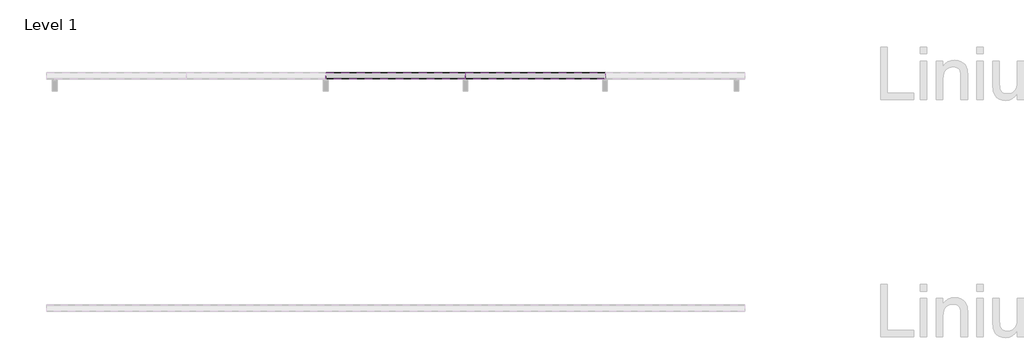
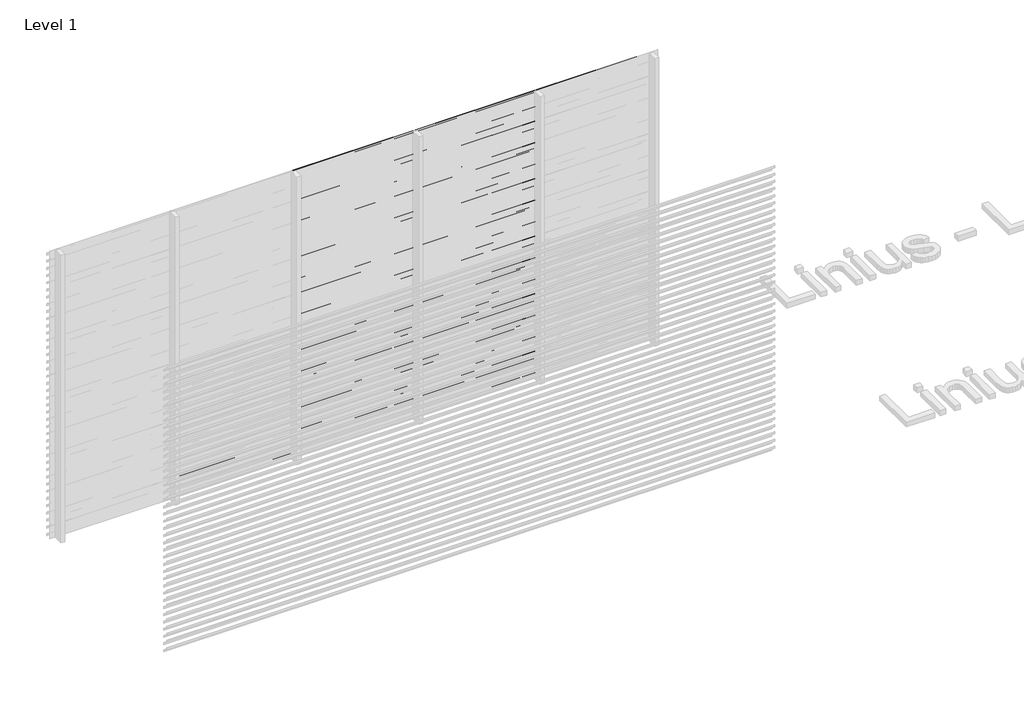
# One storey, part 22 of 55: 84 proxies.
"""IFC4 building model written with IfcOpenShell, lengths in millimetres."""

import ifcopenshell
import ifcopenshell.guid

model = None  # the IFC model being written
_history = None  # IfcOwnerHistory: only IFC2X3 demands one
_inside = {}  # id of a spatial element -> (the spatial element, [elements in it])
_under = {}  # id of a project, library or spatial element -> (it, [spatial elements below it])
_declared = {}  # id of a project -> (the project, [libraries it declares])
_typed = {}  # id of a type object -> (the type object, [elements of that type])
_made_of = {}  # id of a material, layer set ... -> (it, [elements and type objects made of it])


def new_model(schema):
    """Start an empty IFC model of exactly this schema.

    Asked for "IFC4X3", IfcOpenShell would pick the latest addendum, in which some entities
    have other attributes; the version numbers below select the first issue.
    IFC2X3 requires an IfcOwnerHistory on every rooted entity: one is made here for all.
    """
    global model, _history
    if schema == "IFC4X3":
        model = ifcopenshell.file(schema_version=(4, 3, 0, 0))
    else:
        model = ifcopenshell.file(schema=schema)
    _inside.clear()
    _under.clear()
    _declared.clear()
    _typed.clear()
    _made_of.clear()
    _history = None
    if model.schema == "IFC2X3":
        org = make("IfcOrganization", Name="unknown")
        user = make(
            "IfcPersonAndOrganization",
            ThePerson=make("IfcPerson", FamilyName="unknown"),
            TheOrganization=org,
        )
        app = make(
            "IfcApplication",
            ApplicationDeveloper=org,
            Version="unknown",
            ApplicationFullName="unknown",
            ApplicationIdentifier="unknown",
        )
        _history = make(
            "IfcOwnerHistory",
            OwningUser=user,
            OwningApplication=app,
            ChangeAction="ADDED",
            CreationDate=0,
        )
    return model


def make(cls, **values):
    """One entity of the class cls with the attributes given. An attribute that is None is left unset."""
    return model.create_entity(
        cls, **{name: value for name, value in values.items() if value is not None}
    )


def rooted(cls, **values):
    """An entity with a GlobalId (a new one), such as an element, a storey or a relation."""
    return make(cls, GlobalId=ifcopenshell.guid.new(), OwnerHistory=_history, **values)


def si_unit(unit_type, name, prefix=None):
    """IfcSIUnit, for example si_unit("LENGTHUNIT", "METRE", prefix="MILLI")."""
    return make("IfcSIUnit", UnitType=unit_type, Prefix=prefix, Name=name)


def assignment(units):
    """IfcUnitAssignment: the units of a project."""
    return None if units is None else make("IfcUnitAssignment", Units=units)


def point(xyz):
    """IfcCartesianPoint."""
    return None if xyz is None else make("IfcCartesianPoint", Coordinates=xyz)


def direction(xyz):
    """IfcDirection."""
    return None if xyz is None else make("IfcDirection", DirectionRatios=xyz)


def frame(location, z_axis=None, x_axis=None):
    """IfcAxis2Placement3D, a coordinate frame: its origin and axes. An axis left out is left unset."""
    return make(
        "IfcAxis2Placement3D",
        Location=point(location),
        Axis=direction(z_axis),
        RefDirection=direction(x_axis),
    )


def origin():
    """The frame at (0, 0, 0) with its axes left unset."""
    return frame((0.0, 0.0, 0.0))


def place(relative_to, where):
    """IfcLocalPlacement: puts the frame where relative to a parent placement (None: the world)."""
    return make(
        "IfcLocalPlacement", PlacementRelTo=relative_to, RelativePlacement=where
    )


def context(
    kind, dimensions, precision=None, world=None, true_north=None, identifier=None
):
    """IfcGeometricRepresentationContext, for example the 3D "Model" context."""
    return make(
        "IfcGeometricRepresentationContext",
        ContextIdentifier=identifier,
        ContextType=kind,
        CoordinateSpaceDimension=dimensions,
        Precision=precision,
        WorldCoordinateSystem=world,
        TrueNorth=true_north,
    )


def project(units=None, contexts=None):
    """IfcProject with its units and contexts."""
    return rooted(
        "IfcProject",
        Name="project",
        RepresentationContexts=contexts,
        UnitsInContext=assignment(units),
    )


def spatial(cls, under=None, at=None, **own):
    """A site, building, storey or space (cls), placed at a placement, below another one or the project."""
    s = rooted(cls, ObjectPlacement=at, **own)
    if under is not None:
        _under.setdefault(under.id(), (under, []))[1].append(s)
    return s


def polyline(points):
    """IfcPolyline through the points."""
    return make("IfcPolyline", Points=[point(p) for p in points])


def outline(outer, holes=None, kind="AREA"):
    """IfcArbitraryClosedProfileDef: a profile drawn as a closed curve; with holes, ...WithVoids."""
    if holes is None:
        return make("IfcArbitraryClosedProfileDef", ProfileType=kind, OuterCurve=outer)
    return make(
        "IfcArbitraryProfileDefWithVoids",
        ProfileType=kind,
        OuterCurve=outer,
        InnerCurves=holes,
    )


def extrude(swept, where, along, depth):
    """IfcExtrudedAreaSolid: the profile swept, set in the frame where, extruded along a direction by depth."""
    return make(
        "IfcExtrudedAreaSolid",
        SweptArea=swept,
        Position=where,
        ExtrudedDirection=direction(along),
        Depth=depth,
    )


def shape(context_of_items, identifier, shape_type, items):
    """IfcShapeRepresentation: the items that make up one representation, for example the "Body"."""
    return make(
        "IfcShapeRepresentation",
        ContextOfItems=context_of_items,
        RepresentationIdentifier=identifier,
        RepresentationType=shape_type,
        Items=items,
    )


def made_of(thing, what):
    """Note that an element or type object is made of a material, layer set ...; save() writes the relation."""
    if what is not None:
        _made_of.setdefault(what.id(), (what, []))[1].append(thing)
    return thing


def element(
    cls,
    number,
    at=None,
    inside=None,
    cuts=None,
    type_object=None,
    material=None,
    context=None,
    identifier="Body",
    shape_type=None,
    held_by="IfcProductDefinitionShape",
    body=None,
    shapes=None,
    **own,
):
    """One element of the class cls, such as IfcWall. Its Tag is "e" and its number.

    at: its placement. inside: the storey or other place that contains it. cuts: it is an
    opening in that element (IfcRelVoidsElement). A single representation is given by context,
    identifier, shape_type and body (its items); several are given by shapes. held_by: the class
    of the entity that holds the representations. save() writes the other relations.
    """
    e = rooted(cls, Tag="e%d" % number, ObjectPlacement=at, **own)
    if body is not None:
        shapes = [shape(context, identifier, shape_type, body)]
    if shapes is not None:
        e.Representation = make(held_by, Representations=shapes)
    if inside is not None:
        _inside.setdefault(inside.id(), (inside, []))[1].append(e)
    if cuts is not None:
        rooted(
            "IfcRelVoidsElement", RelatingBuildingElement=cuts, RelatedOpeningElement=e
        )
    if type_object is not None:
        _typed.setdefault(type_object.id(), (type_object, []))[1].append(e)
    return made_of(e, material)


def aggregate(whole, parts):
    """IfcRelAggregates: a whole, such as a stair, and the parts it consists of."""
    return rooted("IfcRelAggregates", RelatingObject=whole, RelatedObjects=parts)


def save(model, path):
    """Write the relations noted so far, then the file.

    IfcRelAggregates (storeys below a building ...), IfcRelContainedInSpatialStructure (elements
    in a storey), IfcRelDefinesByType, IfcRelAssociatesMaterial and IfcRelDeclares: one each for
    every whole, place, type object, material and project.
    """
    for whole, parts in _under.values():
        aggregate(whole, parts)
    for where, things in _inside.values():
        rooted(
            "IfcRelContainedInSpatialStructure",
            RelatedElements=things,
            RelatingStructure=where,
        )
    for kind, things in _typed.values():
        rooted("IfcRelDefinesByType", RelatedObjects=things, RelatingType=kind)
    for what, things in _made_of.values():
        rooted("IfcRelAssociatesMaterial", RelatedObjects=things, RelatingMaterial=what)
    for by, libraries in _declared.values():
        rooted("IfcRelDeclares", RelatingContext=by, RelatedDefinitions=libraries)
    model.write(path)


model = new_model("IFC4")

# Units and contexts
model_context = context("Model", 3, world=origin())
ifc_project = project(units=[si_unit("LENGTHUNIT", "METRE", prefix="MILLI")], contexts=[model_context])

# Site, building, storey
site = spatial("IfcSite", under=ifc_project)
building = spatial("IfcBuilding", under=site)
storey = spatial("IfcBuildingStorey", under=building, Name="Level 1", Elevation=0.0)

# Proxies
placement = place(None, origin())
element("IfcBuildingElementProxy", 1, Name="Wall Sweeps", at=placement, inside=storey, context=model_context, shape_type="SweptSolid", body=[
    extrude(outline(polyline([(29081.0540136, 168.5), (29081.0540136, 148.5), (29079.8040136, 149.2216933), (29079.8040136, 167.7872415), (29026.0540136, 205.3158044), (29026.0540136, 225.0), (29027.3040136, 225.0), (29027.3040136, 206.0285629), (29081.0540136, 168.5)])), frame((1666.6208099, 0.0, 0.0), z_axis=(1.0, 0.0, 0.0), x_axis=(0.0, 1.0, 0.0)), (0.0, 0.0, 1.0), 1199.9999999),
])
element("IfcBuildingElementProxy", 2, Name="Wall Sweeps", at=placement, inside=storey, context=model_context, shape_type="SweptSolid", body=[
    extrude(outline(polyline([(29081.0540136, 93.5), (29081.0540136, 73.5), (29079.8040136, 74.2216933), (29079.8040136, 92.7872415), (29026.0540136, 130.3158044), (29026.0540136, 150.0), (29027.3040136, 150.0), (29027.3040136, 131.0285629), (29081.0540136, 93.5)])), frame((1666.6208099, 0.0, 0.0), z_axis=(1.0, 0.0, 0.0), x_axis=(0.0, 1.0, 0.0)), (0.0, 0.0, 1.0), 1199.9999999),
])
element("IfcBuildingElementProxy", 3, Name="Wall Sweeps", at=placement, inside=storey, context=model_context, shape_type="SweptSolid", body=[
    extrude(outline(polyline([(29081.0540136, 18.5), (29081.0540136, -1.5), (29079.8040136, -0.7783067), (29079.8040136, 17.7872415), (29026.0540136, 55.3158044), (29026.0540136, 75.0), (29027.3040136, 75.0), (29027.3040136, 56.0285629), (29081.0540136, 18.5)])), frame((1666.6208099, 0.0, 0.0), z_axis=(1.0, 0.0, 0.0), x_axis=(0.0, 1.0, 0.0)), (0.0, 0.0, 1.0), 1199.9999999),
])
element("IfcBuildingElementProxy", 4, Name="Wall Sweeps", at=placement, inside=storey, context=model_context, shape_type="SweptSolid", body=[
    extrude(outline(polyline([(29081.0540136, 2943.5), (29081.0540136, 2923.5), (29079.8040136, 2924.2216933), (29079.8040136, 2942.7872415), (29026.0540136, 2980.3158044), (29026.0540136, 3000.0), (29027.3040136, 3000.0), (29027.3040136, 2981.0285629), (29081.0540136, 2943.5)])), frame((2866.6208097, 0.0, 0.0), z_axis=(1.0, 0.0, 0.0), x_axis=(0.0, 1.0, 0.0)), (0.0, 0.0, 1.0), 1199.9999999),
])
element("IfcBuildingElementProxy", 5, Name="Wall Sweeps", at=placement, inside=storey, context=model_context, shape_type="SweptSolid", body=[
    extrude(outline(polyline([(29081.0540136, 2868.5), (29081.0540136, 2848.5), (29079.8040136, 2849.2216933), (29079.8040136, 2867.7872415), (29026.0540136, 2905.3158044), (29026.0540136, 2925.0), (29027.3040136, 2925.0), (29027.3040136, 2906.0285629), (29081.0540136, 2868.5)])), frame((2866.6208097, 0.0, 0.0), z_axis=(1.0, 0.0, 0.0), x_axis=(0.0, 1.0, 0.0)), (0.0, 0.0, 1.0), 1199.9999999),
])
element("IfcBuildingElementProxy", 6, Name="Wall Sweeps", at=placement, inside=storey, context=model_context, shape_type="SweptSolid", body=[
    extrude(outline(polyline([(29081.0540136, 2793.5), (29081.0540136, 2773.5), (29079.8040136, 2774.2216933), (29079.8040136, 2792.7872415), (29026.0540136, 2830.3158044), (29026.0540136, 2850.0), (29027.3040136, 2850.0), (29027.3040136, 2831.0285629), (29081.0540136, 2793.5)])), frame((2866.6208097, 0.0, 0.0), z_axis=(1.0, 0.0, 0.0), x_axis=(0.0, 1.0, 0.0)), (0.0, 0.0, 1.0), 1199.9999999),
])
element("IfcBuildingElementProxy", 7, Name="Wall Sweeps", at=placement, inside=storey, context=model_context, shape_type="SweptSolid", body=[
    extrude(outline(polyline([(29081.0540136, 2718.5), (29081.0540136, 2698.5), (29079.8040136, 2699.2216933), (29079.8040136, 2717.7872415), (29026.0540136, 2755.3158044), (29026.0540136, 2775.0), (29027.3040136, 2775.0), (29027.3040136, 2756.0285629), (29081.0540136, 2718.5)])), frame((2866.6208097, 0.0, 0.0), z_axis=(1.0, 0.0, 0.0), x_axis=(0.0, 1.0, 0.0)), (0.0, 0.0, 1.0), 1199.9999999),
])
element("IfcBuildingElementProxy", 8, Name="Wall Sweeps", at=placement, inside=storey, context=model_context, shape_type="SweptSolid", body=[
    extrude(outline(polyline([(29081.0540136, 2643.5), (29081.0540136, 2623.5), (29079.8040136, 2624.2216933), (29079.8040136, 2642.7872415), (29026.0540136, 2680.3158044), (29026.0540136, 2700.0), (29027.3040136, 2700.0), (29027.3040136, 2681.0285629), (29081.0540136, 2643.5)])), frame((2866.6208097, 0.0, 0.0), z_axis=(1.0, 0.0, 0.0), x_axis=(0.0, 1.0, 0.0)), (0.0, 0.0, 1.0), 1199.9999999),
])
element("IfcBuildingElementProxy", 9, Name="Wall Sweeps", at=placement, inside=storey, context=model_context, shape_type="SweptSolid", body=[
    extrude(outline(polyline([(29081.0540136, 2568.5), (29081.0540136, 2548.5), (29079.8040136, 2549.2216933), (29079.8040136, 2567.7872415), (29026.0540136, 2605.3158044), (29026.0540136, 2625.0), (29027.3040136, 2625.0), (29027.3040136, 2606.0285629), (29081.0540136, 2568.5)])), frame((2866.6208097, 0.0, 0.0), z_axis=(1.0, 0.0, 0.0), x_axis=(0.0, 1.0, 0.0)), (0.0, 0.0, 1.0), 1199.9999999),
])
element("IfcBuildingElementProxy", 10, Name="Wall Sweeps", at=placement, inside=storey, context=model_context, shape_type="SweptSolid", body=[
    extrude(outline(polyline([(29081.0540136, 2493.5), (29081.0540136, 2473.5), (29079.8040136, 2474.2216933), (29079.8040136, 2492.7872415), (29026.0540136, 2530.3158044), (29026.0540136, 2550.0), (29027.3040136, 2550.0), (29027.3040136, 2531.0285629), (29081.0540136, 2493.5)])), frame((2866.6208097, 0.0, 0.0), z_axis=(1.0, 0.0, 0.0), x_axis=(0.0, 1.0, 0.0)), (0.0, 0.0, 1.0), 1199.9999999),
])
element("IfcBuildingElementProxy", 11, Name="Wall Sweeps", at=placement, inside=storey, context=model_context, shape_type="SweptSolid", body=[
    extrude(outline(polyline([(29081.0540136, 2418.5), (29081.0540136, 2398.5), (29079.8040136, 2399.2216933), (29079.8040136, 2417.7872415), (29026.0540136, 2455.3158044), (29026.0540136, 2475.0), (29027.3040136, 2475.0), (29027.3040136, 2456.0285629), (29081.0540136, 2418.5)])), frame((2866.6208097, 0.0, 0.0), z_axis=(1.0, 0.0, 0.0), x_axis=(0.0, 1.0, 0.0)), (0.0, 0.0, 1.0), 1199.9999999),
])
element("IfcBuildingElementProxy", 12, Name="Wall Sweeps", at=placement, inside=storey, context=model_context, shape_type="SweptSolid", body=[
    extrude(outline(polyline([(29081.0540136, 2343.5), (29081.0540136, 2323.5), (29079.8040136, 2324.2216933), (29079.8040136, 2342.7872415), (29026.0540136, 2380.3158044), (29026.0540136, 2400.0), (29027.3040136, 2400.0), (29027.3040136, 2381.0285629), (29081.0540136, 2343.5)])), frame((2866.6208097, 0.0, 0.0), z_axis=(1.0, 0.0, 0.0), x_axis=(0.0, 1.0, 0.0)), (0.0, 0.0, 1.0), 1199.9999999),
])
element("IfcBuildingElementProxy", 13, Name="Wall Sweeps", at=placement, inside=storey, context=model_context, shape_type="SweptSolid", body=[
    extrude(outline(polyline([(29081.0540136, 2268.5), (29081.0540136, 2248.5), (29079.8040136, 2249.2216933), (29079.8040136, 2267.7872415), (29026.0540136, 2305.3158044), (29026.0540136, 2325.0), (29027.3040136, 2325.0), (29027.3040136, 2306.0285629), (29081.0540136, 2268.5)])), frame((2866.6208097, 0.0, 0.0), z_axis=(1.0, 0.0, 0.0), x_axis=(0.0, 1.0, 0.0)), (0.0, 0.0, 1.0), 1199.9999999),
])
element("IfcBuildingElementProxy", 14, Name="Wall Sweeps", at=placement, inside=storey, context=model_context, shape_type="SweptSolid", body=[
    extrude(outline(polyline([(29081.0540136, 2193.5), (29081.0540136, 2173.5), (29079.8040136, 2174.2216933), (29079.8040136, 2192.7872415), (29026.0540136, 2230.3158044), (29026.0540136, 2250.0), (29027.3040136, 2250.0), (29027.3040136, 2231.0285629), (29081.0540136, 2193.5)])), frame((2866.6208097, 0.0, 0.0), z_axis=(1.0, 0.0, 0.0), x_axis=(0.0, 1.0, 0.0)), (0.0, 0.0, 1.0), 1199.9999999),
])
element("IfcBuildingElementProxy", 15, Name="Wall Sweeps", at=placement, inside=storey, context=model_context, shape_type="SweptSolid", body=[
    extrude(outline(polyline([(29081.0540136, 2118.5), (29081.0540136, 2098.5), (29079.8040136, 2099.2216933), (29079.8040136, 2117.7872415), (29026.0540136, 2155.3158044), (29026.0540136, 2175.0), (29027.3040136, 2175.0), (29027.3040136, 2156.0285629), (29081.0540136, 2118.5)])), frame((2866.6208097, 0.0, 0.0), z_axis=(1.0, 0.0, 0.0), x_axis=(0.0, 1.0, 0.0)), (0.0, 0.0, 1.0), 1199.9999999),
])
element("IfcBuildingElementProxy", 16, Name="Wall Sweeps", at=placement, inside=storey, context=model_context, shape_type="SweptSolid", body=[
    extrude(outline(polyline([(29081.0540136, 2043.5), (29081.0540136, 2023.5), (29079.8040136, 2024.2216933), (29079.8040136, 2042.7872415), (29026.0540136, 2080.3158044), (29026.0540136, 2100.0), (29027.3040136, 2100.0), (29027.3040136, 2081.0285629), (29081.0540136, 2043.5)])), frame((2866.6208097, 0.0, 0.0), z_axis=(1.0, 0.0, 0.0), x_axis=(0.0, 1.0, 0.0)), (0.0, 0.0, 1.0), 1199.9999999),
])
element("IfcBuildingElementProxy", 17, Name="Wall Sweeps", at=placement, inside=storey, context=model_context, shape_type="SweptSolid", body=[
    extrude(outline(polyline([(29081.0540136, 1968.5), (29081.0540136, 1948.5), (29079.8040136, 1949.2216933), (29079.8040136, 1967.7872415), (29026.0540136, 2005.3158044), (29026.0540136, 2025.0), (29027.3040136, 2025.0), (29027.3040136, 2006.0285629), (29081.0540136, 1968.5)])), frame((2866.6208097, 0.0, 0.0), z_axis=(1.0, 0.0, 0.0), x_axis=(0.0, 1.0, 0.0)), (0.0, 0.0, 1.0), 1199.9999999),
])
element("IfcBuildingElementProxy", 18, Name="Wall Sweeps", at=placement, inside=storey, context=model_context, shape_type="SweptSolid", body=[
    extrude(outline(polyline([(29081.0540136, 1893.5), (29081.0540136, 1873.5), (29079.8040136, 1874.2216933), (29079.8040136, 1892.7872415), (29026.0540136, 1930.3158044), (29026.0540136, 1950.0), (29027.3040136, 1950.0), (29027.3040136, 1931.0285629), (29081.0540136, 1893.5)])), frame((2866.6208097, 0.0, 0.0), z_axis=(1.0, 0.0, 0.0), x_axis=(0.0, 1.0, 0.0)), (0.0, 0.0, 1.0), 1199.9999999),
])
element("IfcBuildingElementProxy", 19, Name="Wall Sweeps", at=placement, inside=storey, context=model_context, shape_type="SweptSolid", body=[
    extrude(outline(polyline([(29081.0540136, 1818.5), (29081.0540136, 1798.5), (29079.8040136, 1799.2216933), (29079.8040136, 1817.7872415), (29026.0540136, 1855.3158044), (29026.0540136, 1875.0), (29027.3040136, 1875.0), (29027.3040136, 1856.0285629), (29081.0540136, 1818.5)])), frame((2866.6208097, 0.0, 0.0), z_axis=(1.0, 0.0, 0.0), x_axis=(0.0, 1.0, 0.0)), (0.0, 0.0, 1.0), 1199.9999999),
])
element("IfcBuildingElementProxy", 20, Name="Wall Sweeps", at=placement, inside=storey, context=model_context, shape_type="SweptSolid", body=[
    extrude(outline(polyline([(29081.0540136, 1743.5), (29081.0540136, 1723.5), (29079.8040136, 1724.2216933), (29079.8040136, 1742.7872415), (29026.0540136, 1780.3158044), (29026.0540136, 1800.0), (29027.3040136, 1800.0), (29027.3040136, 1781.0285629), (29081.0540136, 1743.5)])), frame((2866.6208097, 0.0, 0.0), z_axis=(1.0, 0.0, 0.0), x_axis=(0.0, 1.0, 0.0)), (0.0, 0.0, 1.0), 1199.9999999),
])
element("IfcBuildingElementProxy", 21, Name="Wall Sweeps", at=placement, inside=storey, context=model_context, shape_type="SweptSolid", body=[
    extrude(outline(polyline([(29081.0540136, 1668.5), (29081.0540136, 1648.5), (29079.8040136, 1649.2216933), (29079.8040136, 1667.7872415), (29026.0540136, 1705.3158044), (29026.0540136, 1725.0), (29027.3040136, 1725.0), (29027.3040136, 1706.0285629), (29081.0540136, 1668.5)])), frame((2866.6208097, 0.0, 0.0), z_axis=(1.0, 0.0, 0.0), x_axis=(0.0, 1.0, 0.0)), (0.0, 0.0, 1.0), 1199.9999999),
])
element("IfcBuildingElementProxy", 22, Name="Wall Sweeps", at=placement, inside=storey, context=model_context, shape_type="SweptSolid", body=[
    extrude(outline(polyline([(29081.0540136, 1593.5), (29081.0540136, 1573.5), (29079.8040136, 1574.2216933), (29079.8040136, 1592.7872415), (29026.0540136, 1630.3158044), (29026.0540136, 1650.0), (29027.3040136, 1650.0), (29027.3040136, 1631.0285629), (29081.0540136, 1593.5)])), frame((2866.6208097, 0.0, 0.0), z_axis=(1.0, 0.0, 0.0), x_axis=(0.0, 1.0, 0.0)), (0.0, 0.0, 1.0), 1199.9999999),
])
element("IfcBuildingElementProxy", 23, Name="Wall Sweeps", at=placement, inside=storey, context=model_context, shape_type="SweptSolid", body=[
    extrude(outline(polyline([(29081.0540136, 1518.5), (29081.0540136, 1498.5), (29079.8040136, 1499.2216933), (29079.8040136, 1517.7872415), (29026.0540136, 1555.3158044), (29026.0540136, 1575.0), (29027.3040136, 1575.0), (29027.3040136, 1556.0285629), (29081.0540136, 1518.5)])), frame((2866.6208097, 0.0, 0.0), z_axis=(1.0, 0.0, 0.0), x_axis=(0.0, 1.0, 0.0)), (0.0, 0.0, 1.0), 1199.9999999),
])
element("IfcBuildingElementProxy", 24, Name="Wall Sweeps", at=placement, inside=storey, context=model_context, shape_type="SweptSolid", body=[
    extrude(outline(polyline([(29081.0540136, 1443.5), (29081.0540136, 1423.5), (29079.8040136, 1424.2216933), (29079.8040136, 1442.7872415), (29026.0540136, 1480.3158044), (29026.0540136, 1500.0), (29027.3040136, 1500.0), (29027.3040136, 1481.0285629), (29081.0540136, 1443.5)])), frame((2866.6208097, 0.0, 0.0), z_axis=(1.0, 0.0, 0.0), x_axis=(0.0, 1.0, 0.0)), (0.0, 0.0, 1.0), 1199.9999999),
])
element("IfcBuildingElementProxy", 25, Name="Wall Sweeps", at=placement, inside=storey, context=model_context, shape_type="SweptSolid", body=[
    extrude(outline(polyline([(29081.0540136, 1368.5), (29081.0540136, 1348.5), (29079.8040136, 1349.2216933), (29079.8040136, 1367.7872415), (29026.0540136, 1405.3158044), (29026.0540136, 1425.0), (29027.3040136, 1425.0), (29027.3040136, 1406.0285629), (29081.0540136, 1368.5)])), frame((2866.6208097, 0.0, 0.0), z_axis=(1.0, 0.0, 0.0), x_axis=(0.0, 1.0, 0.0)), (0.0, 0.0, 1.0), 1199.9999999),
])
element("IfcBuildingElementProxy", 26, Name="Wall Sweeps", at=placement, inside=storey, context=model_context, shape_type="SweptSolid", body=[
    extrude(outline(polyline([(29081.0540136, 1293.5), (29081.0540136, 1273.5), (29079.8040136, 1274.2216933), (29079.8040136, 1292.7872415), (29026.0540136, 1330.3158044), (29026.0540136, 1350.0), (29027.3040136, 1350.0), (29027.3040136, 1331.0285629), (29081.0540136, 1293.5)])), frame((2866.6208097, 0.0, 0.0), z_axis=(1.0, 0.0, 0.0), x_axis=(0.0, 1.0, 0.0)), (0.0, 0.0, 1.0), 1199.9999999),
])
element("IfcBuildingElementProxy", 27, Name="Wall Sweeps", at=placement, inside=storey, context=model_context, shape_type="SweptSolid", body=[
    extrude(outline(polyline([(29081.0540136, 1218.5), (29081.0540136, 1198.5), (29079.8040136, 1199.2216933), (29079.8040136, 1217.7872415), (29026.0540136, 1255.3158044), (29026.0540136, 1275.0), (29027.3040136, 1275.0), (29027.3040136, 1256.0285629), (29081.0540136, 1218.5)])), frame((2866.6208097, 0.0, 0.0), z_axis=(1.0, 0.0, 0.0), x_axis=(0.0, 1.0, 0.0)), (0.0, 0.0, 1.0), 1199.9999999),
])
element("IfcBuildingElementProxy", 28, Name="Wall Sweeps", at=placement, inside=storey, context=model_context, shape_type="SweptSolid", body=[
    extrude(outline(polyline([(29081.0540136, 1143.5), (29081.0540136, 1123.5), (29079.8040136, 1124.2216933), (29079.8040136, 1142.7872415), (29026.0540136, 1180.3158044), (29026.0540136, 1200.0), (29027.3040136, 1200.0), (29027.3040136, 1181.0285629), (29081.0540136, 1143.5)])), frame((2866.6208097, 0.0, 0.0), z_axis=(1.0, 0.0, 0.0), x_axis=(0.0, 1.0, 0.0)), (0.0, 0.0, 1.0), 1199.9999999),
])
element("IfcBuildingElementProxy", 29, Name="Wall Sweeps", at=placement, inside=storey, context=model_context, shape_type="SweptSolid", body=[
    extrude(outline(polyline([(29081.0540136, 1068.5), (29081.0540136, 1048.5), (29079.8040136, 1049.2216933), (29079.8040136, 1067.7872415), (29026.0540136, 1105.3158044), (29026.0540136, 1125.0), (29027.3040136, 1125.0), (29027.3040136, 1106.0285629), (29081.0540136, 1068.5)])), frame((2866.6208097, 0.0, 0.0), z_axis=(1.0, 0.0, 0.0), x_axis=(0.0, 1.0, 0.0)), (0.0, 0.0, 1.0), 1199.9999999),
])
element("IfcBuildingElementProxy", 30, Name="Wall Sweeps", at=placement, inside=storey, context=model_context, shape_type="SweptSolid", body=[
    extrude(outline(polyline([(29081.0540136, 993.5), (29081.0540136, 973.5), (29079.8040136, 974.2216933), (29079.8040136, 992.7872415), (29026.0540136, 1030.3158044), (29026.0540136, 1050.0), (29027.3040136, 1050.0), (29027.3040136, 1031.0285629), (29081.0540136, 993.5)])), frame((2866.6208097, 0.0, 0.0), z_axis=(1.0, 0.0, 0.0), x_axis=(0.0, 1.0, 0.0)), (0.0, 0.0, 1.0), 1199.9999999),
])
element("IfcBuildingElementProxy", 31, Name="Wall Sweeps", at=placement, inside=storey, context=model_context, shape_type="SweptSolid", body=[
    extrude(outline(polyline([(29081.0540136, 918.5), (29081.0540136, 898.5), (29079.8040136, 899.2216933), (29079.8040136, 917.7872415), (29026.0540136, 955.3158044), (29026.0540136, 975.0), (29027.3040136, 975.0), (29027.3040136, 956.0285629), (29081.0540136, 918.5)])), frame((2866.6208097, 0.0, 0.0), z_axis=(1.0, 0.0, 0.0), x_axis=(0.0, 1.0, 0.0)), (0.0, 0.0, 1.0), 1199.9999999),
])
element("IfcBuildingElementProxy", 32, Name="Wall Sweeps", at=placement, inside=storey, context=model_context, shape_type="SweptSolid", body=[
    extrude(outline(polyline([(29081.0540136, 843.5), (29081.0540136, 823.5), (29079.8040136, 824.2216933), (29079.8040136, 842.7872415), (29026.0540136, 880.3158044), (29026.0540136, 900.0), (29027.3040136, 900.0), (29027.3040136, 881.0285629), (29081.0540136, 843.5)])), frame((2866.6208097, 0.0, 0.0), z_axis=(1.0, 0.0, 0.0), x_axis=(0.0, 1.0, 0.0)), (0.0, 0.0, 1.0), 1199.9999999),
])
element("IfcBuildingElementProxy", 33, Name="Wall Sweeps", at=placement, inside=storey, context=model_context, shape_type="SweptSolid", body=[
    extrude(outline(polyline([(29081.0540136, 768.5), (29081.0540136, 748.5), (29079.8040136, 749.2216933), (29079.8040136, 767.7872415), (29026.0540136, 805.3158044), (29026.0540136, 825.0), (29027.3040136, 825.0), (29027.3040136, 806.0285629), (29081.0540136, 768.5)])), frame((2866.6208097, 0.0, 0.0), z_axis=(1.0, 0.0, 0.0), x_axis=(0.0, 1.0, 0.0)), (0.0, 0.0, 1.0), 1199.9999999),
])
element("IfcBuildingElementProxy", 34, Name="Wall Sweeps", at=placement, inside=storey, context=model_context, shape_type="SweptSolid", body=[
    extrude(outline(polyline([(29081.0540136, 693.5), (29081.0540136, 673.5), (29079.8040136, 674.2216933), (29079.8040136, 692.7872415), (29026.0540136, 730.3158044), (29026.0540136, 750.0), (29027.3040136, 750.0), (29027.3040136, 731.0285629), (29081.0540136, 693.5)])), frame((2866.6208097, 0.0, 0.0), z_axis=(1.0, 0.0, 0.0), x_axis=(0.0, 1.0, 0.0)), (0.0, 0.0, 1.0), 1199.9999999),
])
element("IfcBuildingElementProxy", 35, Name="Wall Sweeps", at=placement, inside=storey, context=model_context, shape_type="SweptSolid", body=[
    extrude(outline(polyline([(29081.0540136, 618.5), (29081.0540136, 598.5), (29079.8040136, 599.2216933), (29079.8040136, 617.7872415), (29026.0540136, 655.3158044), (29026.0540136, 675.0), (29027.3040136, 675.0), (29027.3040136, 656.0285629), (29081.0540136, 618.5)])), frame((2866.6208097, 0.0, 0.0), z_axis=(1.0, 0.0, 0.0), x_axis=(0.0, 1.0, 0.0)), (0.0, 0.0, 1.0), 1199.9999999),
])
element("IfcBuildingElementProxy", 36, Name="Wall Sweeps", at=placement, inside=storey, context=model_context, shape_type="SweptSolid", body=[
    extrude(outline(polyline([(29081.0540136, 543.5), (29081.0540136, 523.5), (29079.8040136, 524.2216933), (29079.8040136, 542.7872415), (29026.0540136, 580.3158044), (29026.0540136, 600.0), (29027.3040136, 600.0), (29027.3040136, 581.0285629), (29081.0540136, 543.5)])), frame((2866.6208097, 0.0, 0.0), z_axis=(1.0, 0.0, 0.0), x_axis=(0.0, 1.0, 0.0)), (0.0, 0.0, 1.0), 1199.9999999),
])
element("IfcBuildingElementProxy", 37, Name="Wall Sweeps", at=placement, inside=storey, context=model_context, shape_type="SweptSolid", body=[
    extrude(outline(polyline([(29081.0540136, 468.5), (29081.0540136, 448.5), (29079.8040136, 449.2216933), (29079.8040136, 467.7872415), (29026.0540136, 505.3158044), (29026.0540136, 525.0), (29027.3040136, 525.0), (29027.3040136, 506.0285629), (29081.0540136, 468.5)])), frame((2866.6208097, 0.0, 0.0), z_axis=(1.0, 0.0, 0.0), x_axis=(0.0, 1.0, 0.0)), (0.0, 0.0, 1.0), 1199.9999999),
])
element("IfcBuildingElementProxy", 38, Name="Wall Sweeps", at=placement, inside=storey, context=model_context, shape_type="SweptSolid", body=[
    extrude(outline(polyline([(29081.0540136, 393.5), (29081.0540136, 373.5), (29079.8040136, 374.2216933), (29079.8040136, 392.7872415), (29026.0540136, 430.3158044), (29026.0540136, 450.0), (29027.3040136, 450.0), (29027.3040136, 431.0285629), (29081.0540136, 393.5)])), frame((2866.6208097, 0.0, 0.0), z_axis=(1.0, 0.0, 0.0), x_axis=(0.0, 1.0, 0.0)), (0.0, 0.0, 1.0), 1199.9999999),
])
element("IfcBuildingElementProxy", 39, Name="Wall Sweeps", at=placement, inside=storey, context=model_context, shape_type="SweptSolid", body=[
    extrude(outline(polyline([(29081.0540136, 318.5), (29081.0540136, 298.5), (29079.8040136, 299.2216933), (29079.8040136, 317.7872415), (29026.0540136, 355.3158044), (29026.0540136, 375.0), (29027.3040136, 375.0), (29027.3040136, 356.0285629), (29081.0540136, 318.5)])), frame((2866.6208097, 0.0, 0.0), z_axis=(1.0, 0.0, 0.0), x_axis=(0.0, 1.0, 0.0)), (0.0, 0.0, 1.0), 1199.9999999),
])
element("IfcBuildingElementProxy", 40, Name="Wall Sweeps", at=placement, inside=storey, context=model_context, shape_type="SweptSolid", body=[
    extrude(outline(polyline([(29081.0540136, 243.5), (29081.0540136, 223.5), (29079.8040136, 224.2216933), (29079.8040136, 242.7872415), (29026.0540136, 280.3158044), (29026.0540136, 300.0), (29027.3040136, 300.0), (29027.3040136, 281.0285629), (29081.0540136, 243.5)])), frame((2866.6208097, 0.0, 0.0), z_axis=(1.0, 0.0, 0.0), x_axis=(0.0, 1.0, 0.0)), (0.0, 0.0, 1.0), 1199.9999999),
])
element("IfcBuildingElementProxy", 41, Name="Wall Sweeps", at=placement, inside=storey, context=model_context, shape_type="SweptSolid", body=[
    extrude(outline(polyline([(29081.0540136, 168.5), (29081.0540136, 148.5), (29079.8040136, 149.2216933), (29079.8040136, 167.7872415), (29026.0540136, 205.3158044), (29026.0540136, 225.0), (29027.3040136, 225.0), (29027.3040136, 206.0285629), (29081.0540136, 168.5)])), frame((2866.6208097, 0.0, 0.0), z_axis=(1.0, 0.0, 0.0), x_axis=(0.0, 1.0, 0.0)), (0.0, 0.0, 1.0), 1199.9999999),
])
element("IfcBuildingElementProxy", 42, Name="Wall Sweeps", at=placement, inside=storey, context=model_context, shape_type="SweptSolid", body=[
    extrude(outline(polyline([(29081.0540136, 93.5), (29081.0540136, 73.5), (29079.8040136, 74.2216933), (29079.8040136, 92.7872415), (29026.0540136, 130.3158044), (29026.0540136, 150.0), (29027.3040136, 150.0), (29027.3040136, 131.0285629), (29081.0540136, 93.5)])), frame((2866.6208097, 0.0, 0.0), z_axis=(1.0, 0.0, 0.0), x_axis=(0.0, 1.0, 0.0)), (0.0, 0.0, 1.0), 1199.9999999),
])
element("IfcBuildingElementProxy", 43, Name="Wall Sweeps", at=placement, inside=storey, context=model_context, shape_type="SweptSolid", body=[
    extrude(outline(polyline([(29081.0540136, 18.5), (29081.0540136, -1.5), (29079.8040136, -0.7783067), (29079.8040136, 17.7872415), (29026.0540136, 55.3158044), (29026.0540136, 75.0), (29027.3040136, 75.0), (29027.3040136, 56.0285629), (29081.0540136, 18.5)])), frame((2866.6208097, 0.0, 0.0), z_axis=(1.0, 0.0, 0.0), x_axis=(0.0, 1.0, 0.0)), (0.0, 0.0, 1.0), 1199.9999999),
])
element("IfcBuildingElementProxy", 44, Name="Wall Sweeps", at=placement, inside=storey, context=model_context, shape_type="SweptSolid", body=[
    extrude(outline(polyline([(29081.0540136, 2943.5), (29081.0540136, 2923.5), (29079.8040136, 2924.2216933), (29079.8040136, 2942.7872415), (29026.0540136, 2980.3158044), (29026.0540136, 3000.0), (29027.3040136, 3000.0), (29027.3040136, 2981.0285629), (29081.0540136, 2943.5)])), frame((5266.6208095, 0.0, 0.0), z_axis=(1.0, 0.0, 0.0), x_axis=(0.0, 1.0, 0.0)), (0.0, 0.0, 1.0), 1200.0000002),
])
element("IfcBuildingElementProxy", 45, Name="Wall Sweeps", at=placement, inside=storey, context=model_context, shape_type="SweptSolid", body=[
    extrude(outline(polyline([(29081.0540136, 2943.5), (29081.0540136, 2923.5), (29079.8040136, 2924.2216933), (29079.8040136, 2942.7872415), (29026.0540136, 2980.3158044), (29026.0540136, 3000.0), (29027.3040136, 3000.0), (29027.3040136, 2981.0285629), (29081.0540136, 2943.5)])), frame((4066.6208096, 0.0, 0.0), z_axis=(1.0, 0.0, 0.0), x_axis=(0.0, 1.0, 0.0)), (0.0, 0.0, 1.0), 1199.9999999),
])
element("IfcBuildingElementProxy", 46, Name="Wall Sweeps", at=placement, inside=storey, context=model_context, shape_type="SweptSolid", body=[
    extrude(outline(polyline([(29081.0540136, 2868.5), (29081.0540136, 2848.5), (29079.8040136, 2849.2216933), (29079.8040136, 2867.7872415), (29026.0540136, 2905.3158044), (29026.0540136, 2925.0), (29027.3040136, 2925.0), (29027.3040136, 2906.0285629), (29081.0540136, 2868.5)])), frame((4066.6208096, 0.0, 0.0), z_axis=(1.0, 0.0, 0.0), x_axis=(0.0, 1.0, 0.0)), (0.0, 0.0, 1.0), 1199.9999999),
])
element("IfcBuildingElementProxy", 47, Name="Wall Sweeps", at=placement, inside=storey, context=model_context, shape_type="SweptSolid", body=[
    extrude(outline(polyline([(29081.0540136, 2793.5), (29081.0540136, 2773.5), (29079.8040136, 2774.2216933), (29079.8040136, 2792.7872415), (29026.0540136, 2830.3158044), (29026.0540136, 2850.0), (29027.3040136, 2850.0), (29027.3040136, 2831.0285629), (29081.0540136, 2793.5)])), frame((4066.6208096, 0.0, 0.0), z_axis=(1.0, 0.0, 0.0), x_axis=(0.0, 1.0, 0.0)), (0.0, 0.0, 1.0), 1199.9999999),
])
element("IfcBuildingElementProxy", 48, Name="Wall Sweeps", at=placement, inside=storey, context=model_context, shape_type="SweptSolid", body=[
    extrude(outline(polyline([(29081.0540136, 2718.5), (29081.0540136, 2698.5), (29079.8040136, 2699.2216933), (29079.8040136, 2717.7872415), (29026.0540136, 2755.3158044), (29026.0540136, 2775.0), (29027.3040136, 2775.0), (29027.3040136, 2756.0285629), (29081.0540136, 2718.5)])), frame((4066.6208096, 0.0, 0.0), z_axis=(1.0, 0.0, 0.0), x_axis=(0.0, 1.0, 0.0)), (0.0, 0.0, 1.0), 1199.9999999),
])
element("IfcBuildingElementProxy", 49, Name="Wall Sweeps", at=placement, inside=storey, context=model_context, shape_type="SweptSolid", body=[
    extrude(outline(polyline([(29081.0540136, 2643.5), (29081.0540136, 2623.5), (29079.8040136, 2624.2216933), (29079.8040136, 2642.7872415), (29026.0540136, 2680.3158044), (29026.0540136, 2700.0), (29027.3040136, 2700.0), (29027.3040136, 2681.0285629), (29081.0540136, 2643.5)])), frame((4066.6208096, 0.0, 0.0), z_axis=(1.0, 0.0, 0.0), x_axis=(0.0, 1.0, 0.0)), (0.0, 0.0, 1.0), 1199.9999999),
])
element("IfcBuildingElementProxy", 50, Name="Wall Sweeps", at=placement, inside=storey, context=model_context, shape_type="SweptSolid", body=[
    extrude(outline(polyline([(29081.0540136, 2568.5), (29081.0540136, 2548.5), (29079.8040136, 2549.2216933), (29079.8040136, 2567.7872415), (29026.0540136, 2605.3158044), (29026.0540136, 2625.0), (29027.3040136, 2625.0), (29027.3040136, 2606.0285629), (29081.0540136, 2568.5)])), frame((4066.6208096, 0.0, 0.0), z_axis=(1.0, 0.0, 0.0), x_axis=(0.0, 1.0, 0.0)), (0.0, 0.0, 1.0), 1199.9999999),
])
element("IfcBuildingElementProxy", 51, Name="Wall Sweeps", at=placement, inside=storey, context=model_context, shape_type="SweptSolid", body=[
    extrude(outline(polyline([(29081.0540136, 2493.5), (29081.0540136, 2473.5), (29079.8040136, 2474.2216933), (29079.8040136, 2492.7872415), (29026.0540136, 2530.3158044), (29026.0540136, 2550.0), (29027.3040136, 2550.0), (29027.3040136, 2531.0285629), (29081.0540136, 2493.5)])), frame((4066.6208096, 0.0, 0.0), z_axis=(1.0, 0.0, 0.0), x_axis=(0.0, 1.0, 0.0)), (0.0, 0.0, 1.0), 1199.9999999),
])
element("IfcBuildingElementProxy", 52, Name="Wall Sweeps", at=placement, inside=storey, context=model_context, shape_type="SweptSolid", body=[
    extrude(outline(polyline([(29081.0540136, 2418.5), (29081.0540136, 2398.5), (29079.8040136, 2399.2216933), (29079.8040136, 2417.7872415), (29026.0540136, 2455.3158044), (29026.0540136, 2475.0), (29027.3040136, 2475.0), (29027.3040136, 2456.0285629), (29081.0540136, 2418.5)])), frame((4066.6208096, 0.0, 0.0), z_axis=(1.0, 0.0, 0.0), x_axis=(0.0, 1.0, 0.0)), (0.0, 0.0, 1.0), 1199.9999999),
])
element("IfcBuildingElementProxy", 53, Name="Wall Sweeps", at=placement, inside=storey, context=model_context, shape_type="SweptSolid", body=[
    extrude(outline(polyline([(29081.0540136, 2343.5), (29081.0540136, 2323.5), (29079.8040136, 2324.2216933), (29079.8040136, 2342.7872415), (29026.0540136, 2380.3158044), (29026.0540136, 2400.0), (29027.3040136, 2400.0), (29027.3040136, 2381.0285629), (29081.0540136, 2343.5)])), frame((4066.6208096, 0.0, 0.0), z_axis=(1.0, 0.0, 0.0), x_axis=(0.0, 1.0, 0.0)), (0.0, 0.0, 1.0), 1199.9999999),
])
element("IfcBuildingElementProxy", 54, Name="Wall Sweeps", at=placement, inside=storey, context=model_context, shape_type="SweptSolid", body=[
    extrude(outline(polyline([(29081.0540136, 2268.5), (29081.0540136, 2248.5), (29079.8040136, 2249.2216933), (29079.8040136, 2267.7872415), (29026.0540136, 2305.3158044), (29026.0540136, 2325.0), (29027.3040136, 2325.0), (29027.3040136, 2306.0285629), (29081.0540136, 2268.5)])), frame((4066.6208096, 0.0, 0.0), z_axis=(1.0, 0.0, 0.0), x_axis=(0.0, 1.0, 0.0)), (0.0, 0.0, 1.0), 1199.9999999),
])
element("IfcBuildingElementProxy", 55, Name="Wall Sweeps", at=placement, inside=storey, context=model_context, shape_type="SweptSolid", body=[
    extrude(outline(polyline([(29081.0540136, 2193.5), (29081.0540136, 2173.5), (29079.8040136, 2174.2216933), (29079.8040136, 2192.7872415), (29026.0540136, 2230.3158044), (29026.0540136, 2250.0), (29027.3040136, 2250.0), (29027.3040136, 2231.0285629), (29081.0540136, 2193.5)])), frame((4066.6208096, 0.0, 0.0), z_axis=(1.0, 0.0, 0.0), x_axis=(0.0, 1.0, 0.0)), (0.0, 0.0, 1.0), 1199.9999999),
])
element("IfcBuildingElementProxy", 56, Name="Wall Sweeps", at=placement, inside=storey, context=model_context, shape_type="SweptSolid", body=[
    extrude(outline(polyline([(29081.0540136, 2118.5), (29081.0540136, 2098.5), (29079.8040136, 2099.2216933), (29079.8040136, 2117.7872415), (29026.0540136, 2155.3158044), (29026.0540136, 2175.0), (29027.3040136, 2175.0), (29027.3040136, 2156.0285629), (29081.0540136, 2118.5)])), frame((4066.6208096, 0.0, 0.0), z_axis=(1.0, 0.0, 0.0), x_axis=(0.0, 1.0, 0.0)), (0.0, 0.0, 1.0), 1199.9999999),
])
element("IfcBuildingElementProxy", 57, Name="Wall Sweeps", at=placement, inside=storey, context=model_context, shape_type="SweptSolid", body=[
    extrude(outline(polyline([(29081.0540136, 2043.5), (29081.0540136, 2023.5), (29079.8040136, 2024.2216933), (29079.8040136, 2042.7872415), (29026.0540136, 2080.3158044), (29026.0540136, 2100.0), (29027.3040136, 2100.0), (29027.3040136, 2081.0285629), (29081.0540136, 2043.5)])), frame((4066.6208096, 0.0, 0.0), z_axis=(1.0, 0.0, 0.0), x_axis=(0.0, 1.0, 0.0)), (0.0, 0.0, 1.0), 1199.9999999),
])
element("IfcBuildingElementProxy", 58, Name="Wall Sweeps", at=placement, inside=storey, context=model_context, shape_type="SweptSolid", body=[
    extrude(outline(polyline([(29081.0540136, 1968.5), (29081.0540136, 1948.5), (29079.8040136, 1949.2216933), (29079.8040136, 1967.7872415), (29026.0540136, 2005.3158044), (29026.0540136, 2025.0), (29027.3040136, 2025.0), (29027.3040136, 2006.0285629), (29081.0540136, 1968.5)])), frame((4066.6208096, 0.0, 0.0), z_axis=(1.0, 0.0, 0.0), x_axis=(0.0, 1.0, 0.0)), (0.0, 0.0, 1.0), 1199.9999999),
])
element("IfcBuildingElementProxy", 59, Name="Wall Sweeps", at=placement, inside=storey, context=model_context, shape_type="SweptSolid", body=[
    extrude(outline(polyline([(29081.0540136, 1893.5), (29081.0540136, 1873.5), (29079.8040136, 1874.2216933), (29079.8040136, 1892.7872415), (29026.0540136, 1930.3158044), (29026.0540136, 1950.0), (29027.3040136, 1950.0), (29027.3040136, 1931.0285629), (29081.0540136, 1893.5)])), frame((4066.6208096, 0.0, 0.0), z_axis=(1.0, 0.0, 0.0), x_axis=(0.0, 1.0, 0.0)), (0.0, 0.0, 1.0), 1199.9999999),
])
element("IfcBuildingElementProxy", 60, Name="Wall Sweeps", at=placement, inside=storey, context=model_context, shape_type="SweptSolid", body=[
    extrude(outline(polyline([(29081.0540136, 1818.5), (29081.0540136, 1798.5), (29079.8040136, 1799.2216933), (29079.8040136, 1817.7872415), (29026.0540136, 1855.3158044), (29026.0540136, 1875.0), (29027.3040136, 1875.0), (29027.3040136, 1856.0285629), (29081.0540136, 1818.5)])), frame((4066.6208096, 0.0, 0.0), z_axis=(1.0, 0.0, 0.0), x_axis=(0.0, 1.0, 0.0)), (0.0, 0.0, 1.0), 1199.9999999),
])
element("IfcBuildingElementProxy", 61, Name="Wall Sweeps", at=placement, inside=storey, context=model_context, shape_type="SweptSolid", body=[
    extrude(outline(polyline([(29081.0540136, 1743.5), (29081.0540136, 1723.5), (29079.8040136, 1724.2216933), (29079.8040136, 1742.7872415), (29026.0540136, 1780.3158044), (29026.0540136, 1800.0), (29027.3040136, 1800.0), (29027.3040136, 1781.0285629), (29081.0540136, 1743.5)])), frame((4066.6208096, 0.0, 0.0), z_axis=(1.0, 0.0, 0.0), x_axis=(0.0, 1.0, 0.0)), (0.0, 0.0, 1.0), 1199.9999999),
])
element("IfcBuildingElementProxy", 62, Name="Wall Sweeps", at=placement, inside=storey, context=model_context, shape_type="SweptSolid", body=[
    extrude(outline(polyline([(29081.0540136, 1668.5), (29081.0540136, 1648.5), (29079.8040136, 1649.2216933), (29079.8040136, 1667.7872415), (29026.0540136, 1705.3158044), (29026.0540136, 1725.0), (29027.3040136, 1725.0), (29027.3040136, 1706.0285629), (29081.0540136, 1668.5)])), frame((4066.6208096, 0.0, 0.0), z_axis=(1.0, 0.0, 0.0), x_axis=(0.0, 1.0, 0.0)), (0.0, 0.0, 1.0), 1199.9999999),
])
element("IfcBuildingElementProxy", 63, Name="Wall Sweeps", at=placement, inside=storey, context=model_context, shape_type="SweptSolid", body=[
    extrude(outline(polyline([(29081.0540136, 1593.5), (29081.0540136, 1573.5), (29079.8040136, 1574.2216933), (29079.8040136, 1592.7872415), (29026.0540136, 1630.3158044), (29026.0540136, 1650.0), (29027.3040136, 1650.0), (29027.3040136, 1631.0285629), (29081.0540136, 1593.5)])), frame((4066.6208096, 0.0, 0.0), z_axis=(1.0, 0.0, 0.0), x_axis=(0.0, 1.0, 0.0)), (0.0, 0.0, 1.0), 1199.9999999),
])
element("IfcBuildingElementProxy", 64, Name="Wall Sweeps", at=placement, inside=storey, context=model_context, shape_type="SweptSolid", body=[
    extrude(outline(polyline([(29081.0540136, 1518.5), (29081.0540136, 1498.5), (29079.8040136, 1499.2216933), (29079.8040136, 1517.7872415), (29026.0540136, 1555.3158044), (29026.0540136, 1575.0), (29027.3040136, 1575.0), (29027.3040136, 1556.0285629), (29081.0540136, 1518.5)])), frame((4066.6208096, 0.0, 0.0), z_axis=(1.0, 0.0, 0.0), x_axis=(0.0, 1.0, 0.0)), (0.0, 0.0, 1.0), 1199.9999999),
])
element("IfcBuildingElementProxy", 65, Name="Wall Sweeps", at=placement, inside=storey, context=model_context, shape_type="SweptSolid", body=[
    extrude(outline(polyline([(29081.0540136, 1443.5), (29081.0540136, 1423.5), (29079.8040136, 1424.2216933), (29079.8040136, 1442.7872415), (29026.0540136, 1480.3158044), (29026.0540136, 1500.0), (29027.3040136, 1500.0), (29027.3040136, 1481.0285629), (29081.0540136, 1443.5)])), frame((4066.6208096, 0.0, 0.0), z_axis=(1.0, 0.0, 0.0), x_axis=(0.0, 1.0, 0.0)), (0.0, 0.0, 1.0), 1199.9999999),
])
element("IfcBuildingElementProxy", 66, Name="Wall Sweeps", at=placement, inside=storey, context=model_context, shape_type="SweptSolid", body=[
    extrude(outline(polyline([(29081.0540136, 1368.5), (29081.0540136, 1348.5), (29079.8040136, 1349.2216933), (29079.8040136, 1367.7872415), (29026.0540136, 1405.3158044), (29026.0540136, 1425.0), (29027.3040136, 1425.0), (29027.3040136, 1406.0285629), (29081.0540136, 1368.5)])), frame((4066.6208096, 0.0, 0.0), z_axis=(1.0, 0.0, 0.0), x_axis=(0.0, 1.0, 0.0)), (0.0, 0.0, 1.0), 1199.9999999),
])
element("IfcBuildingElementProxy", 67, Name="Wall Sweeps", at=placement, inside=storey, context=model_context, shape_type="SweptSolid", body=[
    extrude(outline(polyline([(29081.0540136, 1293.5), (29081.0540136, 1273.5), (29079.8040136, 1274.2216933), (29079.8040136, 1292.7872415), (29026.0540136, 1330.3158044), (29026.0540136, 1350.0), (29027.3040136, 1350.0), (29027.3040136, 1331.0285629), (29081.0540136, 1293.5)])), frame((4066.6208096, 0.0, 0.0), z_axis=(1.0, 0.0, 0.0), x_axis=(0.0, 1.0, 0.0)), (0.0, 0.0, 1.0), 1199.9999999),
])
element("IfcBuildingElementProxy", 68, Name="Wall Sweeps", at=placement, inside=storey, context=model_context, shape_type="SweptSolid", body=[
    extrude(outline(polyline([(29081.0540136, 1218.5), (29081.0540136, 1198.5), (29079.8040136, 1199.2216933), (29079.8040136, 1217.7872415), (29026.0540136, 1255.3158044), (29026.0540136, 1275.0), (29027.3040136, 1275.0), (29027.3040136, 1256.0285629), (29081.0540136, 1218.5)])), frame((4066.6208096, 0.0, 0.0), z_axis=(1.0, 0.0, 0.0), x_axis=(0.0, 1.0, 0.0)), (0.0, 0.0, 1.0), 1199.9999999),
])
element("IfcBuildingElementProxy", 69, Name="Wall Sweeps", at=placement, inside=storey, context=model_context, shape_type="SweptSolid", body=[
    extrude(outline(polyline([(29081.0540136, 1143.5), (29081.0540136, 1123.5), (29079.8040136, 1124.2216933), (29079.8040136, 1142.7872415), (29026.0540136, 1180.3158044), (29026.0540136, 1200.0), (29027.3040136, 1200.0), (29027.3040136, 1181.0285629), (29081.0540136, 1143.5)])), frame((4066.6208096, 0.0, 0.0), z_axis=(1.0, 0.0, 0.0), x_axis=(0.0, 1.0, 0.0)), (0.0, 0.0, 1.0), 1199.9999999),
])
element("IfcBuildingElementProxy", 70, Name="Wall Sweeps", at=placement, inside=storey, context=model_context, shape_type="SweptSolid", body=[
    extrude(outline(polyline([(29081.0540136, 1068.5), (29081.0540136, 1048.5), (29079.8040136, 1049.2216933), (29079.8040136, 1067.7872415), (29026.0540136, 1105.3158044), (29026.0540136, 1125.0), (29027.3040136, 1125.0), (29027.3040136, 1106.0285629), (29081.0540136, 1068.5)])), frame((4066.6208096, 0.0, 0.0), z_axis=(1.0, 0.0, 0.0), x_axis=(0.0, 1.0, 0.0)), (0.0, 0.0, 1.0), 1199.9999999),
])
element("IfcBuildingElementProxy", 71, Name="Wall Sweeps", at=placement, inside=storey, context=model_context, shape_type="SweptSolid", body=[
    extrude(outline(polyline([(29081.0540136, 993.5), (29081.0540136, 973.5), (29079.8040136, 974.2216933), (29079.8040136, 992.7872415), (29026.0540136, 1030.3158044), (29026.0540136, 1050.0), (29027.3040136, 1050.0), (29027.3040136, 1031.0285629), (29081.0540136, 993.5)])), frame((4066.6208096, 0.0, 0.0), z_axis=(1.0, 0.0, 0.0), x_axis=(0.0, 1.0, 0.0)), (0.0, 0.0, 1.0), 1199.9999999),
])
element("IfcBuildingElementProxy", 72, Name="Wall Sweeps", at=placement, inside=storey, context=model_context, shape_type="SweptSolid", body=[
    extrude(outline(polyline([(29081.0540136, 918.5), (29081.0540136, 898.5), (29079.8040136, 899.2216933), (29079.8040136, 917.7872415), (29026.0540136, 955.3158044), (29026.0540136, 975.0), (29027.3040136, 975.0), (29027.3040136, 956.0285629), (29081.0540136, 918.5)])), frame((4066.6208096, 0.0, 0.0), z_axis=(1.0, 0.0, 0.0), x_axis=(0.0, 1.0, 0.0)), (0.0, 0.0, 1.0), 1199.9999999),
])
element("IfcBuildingElementProxy", 73, Name="Wall Sweeps", at=placement, inside=storey, context=model_context, shape_type="SweptSolid", body=[
    extrude(outline(polyline([(29081.0540136, 843.5), (29081.0540136, 823.5), (29079.8040136, 824.2216933), (29079.8040136, 842.7872415), (29026.0540136, 880.3158044), (29026.0540136, 900.0), (29027.3040136, 900.0), (29027.3040136, 881.0285629), (29081.0540136, 843.5)])), frame((4066.6208096, 0.0, 0.0), z_axis=(1.0, 0.0, 0.0), x_axis=(0.0, 1.0, 0.0)), (0.0, 0.0, 1.0), 1199.9999999),
])
element("IfcBuildingElementProxy", 74, Name="Wall Sweeps", at=placement, inside=storey, context=model_context, shape_type="SweptSolid", body=[
    extrude(outline(polyline([(29081.0540136, 768.5), (29081.0540136, 748.5), (29079.8040136, 749.2216933), (29079.8040136, 767.7872415), (29026.0540136, 805.3158044), (29026.0540136, 825.0), (29027.3040136, 825.0), (29027.3040136, 806.0285629), (29081.0540136, 768.5)])), frame((4066.6208096, 0.0, 0.0), z_axis=(1.0, 0.0, 0.0), x_axis=(0.0, 1.0, 0.0)), (0.0, 0.0, 1.0), 1199.9999999),
])
element("IfcBuildingElementProxy", 75, Name="Wall Sweeps", at=placement, inside=storey, context=model_context, shape_type="SweptSolid", body=[
    extrude(outline(polyline([(29081.0540136, 693.5), (29081.0540136, 673.5), (29079.8040136, 674.2216933), (29079.8040136, 692.7872415), (29026.0540136, 730.3158044), (29026.0540136, 750.0), (29027.3040136, 750.0), (29027.3040136, 731.0285629), (29081.0540136, 693.5)])), frame((4066.6208096, 0.0, 0.0), z_axis=(1.0, 0.0, 0.0), x_axis=(0.0, 1.0, 0.0)), (0.0, 0.0, 1.0), 1199.9999999),
])
element("IfcBuildingElementProxy", 76, Name="Wall Sweeps", at=placement, inside=storey, context=model_context, shape_type="SweptSolid", body=[
    extrude(outline(polyline([(29081.0540136, 618.5), (29081.0540136, 598.5), (29079.8040136, 599.2216933), (29079.8040136, 617.7872415), (29026.0540136, 655.3158044), (29026.0540136, 675.0), (29027.3040136, 675.0), (29027.3040136, 656.0285629), (29081.0540136, 618.5)])), frame((4066.6208096, 0.0, 0.0), z_axis=(1.0, 0.0, 0.0), x_axis=(0.0, 1.0, 0.0)), (0.0, 0.0, 1.0), 1199.9999999),
])
element("IfcBuildingElementProxy", 77, Name="Wall Sweeps", at=placement, inside=storey, context=model_context, shape_type="SweptSolid", body=[
    extrude(outline(polyline([(29081.0540136, 543.5), (29081.0540136, 523.5), (29079.8040136, 524.2216933), (29079.8040136, 542.7872415), (29026.0540136, 580.3158044), (29026.0540136, 600.0), (29027.3040136, 600.0), (29027.3040136, 581.0285629), (29081.0540136, 543.5)])), frame((4066.6208096, 0.0, 0.0), z_axis=(1.0, 0.0, 0.0), x_axis=(0.0, 1.0, 0.0)), (0.0, 0.0, 1.0), 1199.9999999),
])
element("IfcBuildingElementProxy", 78, Name="Wall Sweeps", at=placement, inside=storey, context=model_context, shape_type="SweptSolid", body=[
    extrude(outline(polyline([(29081.0540136, 468.5), (29081.0540136, 448.5), (29079.8040136, 449.2216933), (29079.8040136, 467.7872415), (29026.0540136, 505.3158044), (29026.0540136, 525.0), (29027.3040136, 525.0), (29027.3040136, 506.0285629), (29081.0540136, 468.5)])), frame((4066.6208096, 0.0, 0.0), z_axis=(1.0, 0.0, 0.0), x_axis=(0.0, 1.0, 0.0)), (0.0, 0.0, 1.0), 1199.9999999),
])
element("IfcBuildingElementProxy", 79, Name="Wall Sweeps", at=placement, inside=storey, context=model_context, shape_type="SweptSolid", body=[
    extrude(outline(polyline([(29081.0540136, 393.5), (29081.0540136, 373.5), (29079.8040136, 374.2216933), (29079.8040136, 392.7872415), (29026.0540136, 430.3158044), (29026.0540136, 450.0), (29027.3040136, 450.0), (29027.3040136, 431.0285629), (29081.0540136, 393.5)])), frame((4066.6208096, 0.0, 0.0), z_axis=(1.0, 0.0, 0.0), x_axis=(0.0, 1.0, 0.0)), (0.0, 0.0, 1.0), 1199.9999999),
])
element("IfcBuildingElementProxy", 80, Name="Wall Sweeps", at=placement, inside=storey, context=model_context, shape_type="SweptSolid", body=[
    extrude(outline(polyline([(29081.0540136, 318.5), (29081.0540136, 298.5), (29079.8040136, 299.2216933), (29079.8040136, 317.7872415), (29026.0540136, 355.3158044), (29026.0540136, 375.0), (29027.3040136, 375.0), (29027.3040136, 356.0285629), (29081.0540136, 318.5)])), frame((4066.6208096, 0.0, 0.0), z_axis=(1.0, 0.0, 0.0), x_axis=(0.0, 1.0, 0.0)), (0.0, 0.0, 1.0), 1199.9999999),
])
element("IfcBuildingElementProxy", 81, Name="Wall Sweeps", at=placement, inside=storey, context=model_context, shape_type="SweptSolid", body=[
    extrude(outline(polyline([(29081.0540136, 243.5), (29081.0540136, 223.5), (29079.8040136, 224.2216933), (29079.8040136, 242.7872415), (29026.0540136, 280.3158044), (29026.0540136, 300.0), (29027.3040136, 300.0), (29027.3040136, 281.0285629), (29081.0540136, 243.5)])), frame((4066.6208096, 0.0, 0.0), z_axis=(1.0, 0.0, 0.0), x_axis=(0.0, 1.0, 0.0)), (0.0, 0.0, 1.0), 1199.9999999),
])
element("IfcBuildingElementProxy", 82, Name="Wall Sweeps", at=placement, inside=storey, context=model_context, shape_type="SweptSolid", body=[
    extrude(outline(polyline([(29081.0540136, 168.5), (29081.0540136, 148.5), (29079.8040136, 149.2216933), (29079.8040136, 167.7872415), (29026.0540136, 205.3158044), (29026.0540136, 225.0), (29027.3040136, 225.0), (29027.3040136, 206.0285629), (29081.0540136, 168.5)])), frame((4066.6208096, 0.0, 0.0), z_axis=(1.0, 0.0, 0.0), x_axis=(0.0, 1.0, 0.0)), (0.0, 0.0, 1.0), 1199.9999999),
])
element("IfcBuildingElementProxy", 83, Name="Wall Sweeps", at=placement, inside=storey, context=model_context, shape_type="SweptSolid", body=[
    extrude(outline(polyline([(29081.0540136, 93.5), (29081.0540136, 73.5), (29079.8040136, 74.2216933), (29079.8040136, 92.7872415), (29026.0540136, 130.3158044), (29026.0540136, 150.0), (29027.3040136, 150.0), (29027.3040136, 131.0285629), (29081.0540136, 93.5)])), frame((4066.6208096, 0.0, 0.0), z_axis=(1.0, 0.0, 0.0), x_axis=(0.0, 1.0, 0.0)), (0.0, 0.0, 1.0), 1199.9999999),
])
element("IfcBuildingElementProxy", 84, Name="Wall Sweeps", at=placement, inside=storey, context=model_context, shape_type="SweptSolid", body=[
    extrude(outline(polyline([(29081.0540136, 18.5), (29081.0540136, -1.5), (29079.8040136, -0.7783067), (29079.8040136, 17.7872415), (29026.0540136, 55.3158044), (29026.0540136, 75.0), (29027.3040136, 75.0), (29027.3040136, 56.0285629), (29081.0540136, 18.5)])), frame((4066.6208096, 0.0, 0.0), z_axis=(1.0, 0.0, 0.0), x_axis=(0.0, 1.0, 0.0)), (0.0, 0.0, 1.0), 1199.9999999),
])

save(model, "model.ifc")
